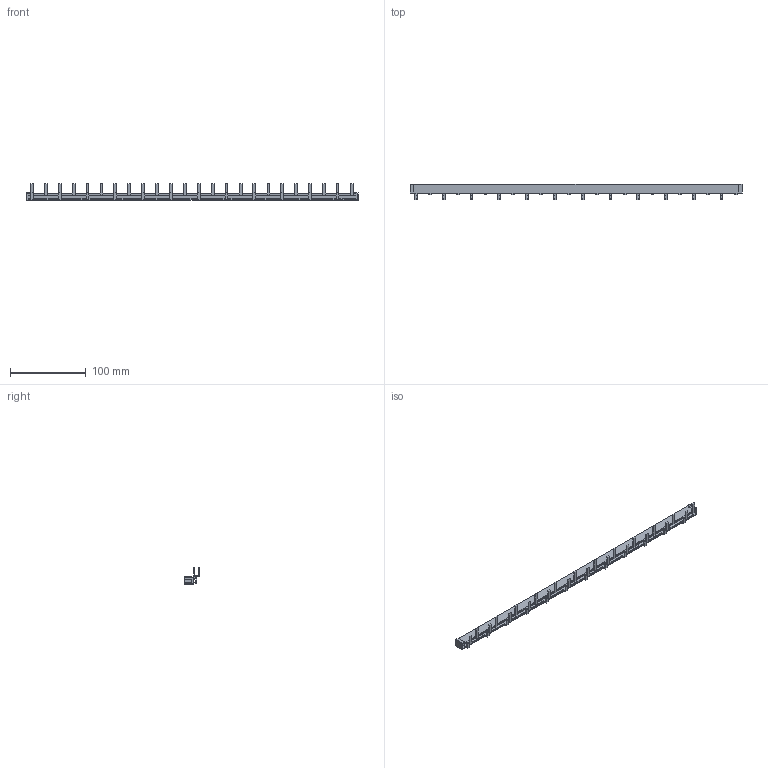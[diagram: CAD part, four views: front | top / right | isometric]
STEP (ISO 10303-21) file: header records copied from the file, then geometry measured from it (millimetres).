
FILE_DESCRIPTION((''),'2;1');
FILE_NAME('SB109554_3D_SOFTWARE_COLOUR','2013-09-11T',('SESA217760'),('Schneider-Electric'),'PRO/ENGINEER BY PARAMETRIC TECHNOLOGY CORPORATION, 2011410','PRO/ENGINEER BY PARAMETRIC TECHNOLOGY CORPORATION, 2011410','');
FILE_SCHEMA(('CONFIG_CONTROL_DESIGN'));
Length unit declared in the file: millimetre
Products named in the file (1): SB109554_3D_SOFTWARE_COLOUR
Bounding box: 439 x 20.9 x 22.3 mm (x, y, z)
Volume: 46621.8 mm3; surface area: 29192.8 mm2
Topology: 3 solids, 3 shells, 282 faces, 776 edges, 500 vertices
Faces by surface type: plane 282
Entity records: 8738 total; most frequent: CARTESIAN_POINT 1558, ORIENTED_EDGE 1552, DIRECTION 1340, VECTOR 776, LINE 776, EDGE_CURVE 776, VERTEX_POINT 500, AXIS2_PLACEMENT_3D 282
